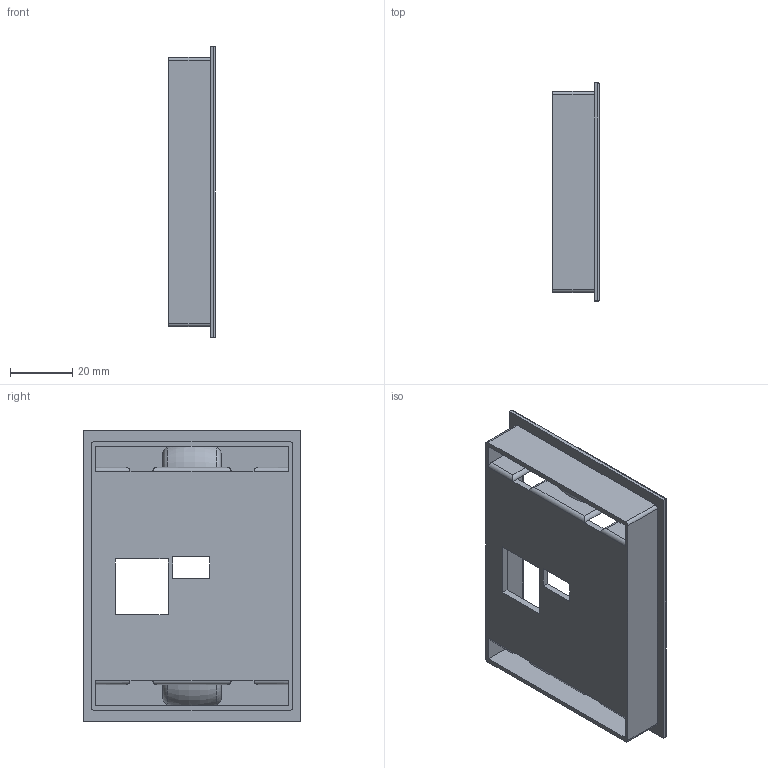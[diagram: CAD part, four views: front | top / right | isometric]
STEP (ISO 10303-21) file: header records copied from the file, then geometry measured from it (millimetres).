
FILE_DESCRIPTION(('STEP AP203'), '1');
FILE_NAME('Ðàìêà ìîíòàæíàÿ _ SDI-MF', '', ('UNSPECIFIED'), ('UNSPECIFIED'), 'C3D Converter', 'C3D Toolkit', '');
FILE_SCHEMA(('CONFIG_CONTROL_DESIGN'));
Length unit declared in the file: millimetre
Products named in the file (1): SDI-MF
Bounding box: 15.1 x 70.2 x 94 mm (x, y, z)
Volume: 20277.6 mm3; surface area: 23335 mm2
Topology: 1 solids, 1 shells, 124 faces, 326 edges, 196 vertices
Faces by surface type: plane 52, cylinder 40, torus 16, bspline 12, sphere 4
Entity records: 6932 total; most frequent: CARTESIAN_POINT 2973, ORIENTED_EDGE 644, DIRECTION 564, EDGE_CURVE 322, VERTEX_POINT 196, AXIS2_PLACEMENT_3D 189, LINE 186, VECTOR 186
